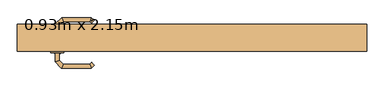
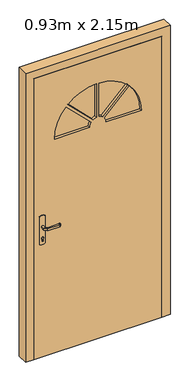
"""IFC4 building model written with IfcOpenShell, lengths in millimetres: door geometry, Entrée - 01 : 0.93m x 2.15m."""

from ifc_helpers import new_model, si_unit, point, frame, frame_2d, origin, place, context, project, spatial, polyline, circle_curve, ellipse_curve, trimmed, segment, composite_curve, outline, extrude, faceted_brep, source, transform, mapped, element, save
from ifc_brep_helpers import plane_surface, cylinder_surface, revolved_surface, advanced_brep


def door_0_93m_x_2_15m_e6f15c2d(model_context):
    return source(origin(), model_context, "Body", "SolidModel", [
        extrude(outline(composite_curve([segment(polyline([(908.0464422, -410.0), (895.0, -410.0)]), True, "CONTINUOUS"), segment(trimmed(circle_curve(frame_2d((895.0, -405.0)), 5.0), [point((895.0, -410.0))], [point((895.0, -400.0))], False, "CARTESIAN"), True, "CONTINUOUS"), segment(polyline([(895.0, -400.0), (908.0464422, -400.0)]), True, "CONTINUOUS"), segment(trimmed(circle_curve(frame_2d((914.2914402, -405.0)), 8.0), [point((908.0464422, -400.0))], [point((908.0464422, -410.0))], False, "CARTESIAN"), True, "CONTINUOUS")], self_intersect=False)), frame((0.0, -110.2546167, 0.0), z_axis=(0.0, 1.0, 0.0), x_axis=(0.0, 0.0, 1.0)), (0.0, 0.0, 1.0), 5.0),
        extrude(outline(composite_curve([segment(polyline([(908.0464422, -410.0), (895.0, -410.0)]), True, "CONTINUOUS"), segment(trimmed(circle_curve(frame_2d((895.0, -405.0)), 5.0), [point((895.0, -410.0))], [point((895.0, -400.0))], False, "CARTESIAN"), True, "CONTINUOUS"), segment(polyline([(895.0, -400.0), (908.0464422, -400.0)]), True, "CONTINUOUS"), segment(trimmed(circle_curve(frame_2d((914.2914402, -405.0)), 8.0), [point((908.0464422, -400.0))], [point((908.0464422, -410.0))], False, "CARTESIAN"), True, "CONTINUOUS")], self_intersect=False)), frame((0.0, -173.2546167, 0.0), z_axis=(0.0, 1.0, 0.0), x_axis=(0.0, 0.0, 1.0)), (0.0, 0.0, 1.0), 3.0),
        advanced_brep(
        [(-399.0, -110.2546167, 993.0), (-399.0, -110.2546167, 1007.0), (-411.0, -110.2546167, 1007.0), (-411.0, -110.2546167, 993.0), (-399.0, -87.7694122, 993.0), (-399.0, -87.7694122, 1007.0), (-411.0, -82.7988495, 1007.0), (-411.0, -82.7988495, 993.0), (-387.5147186, -76.2841309, 993.0), (-387.5147186, -76.2841309, 1007.0), (-392.4852814, -64.2841309, 1007.0), (-392.4852814, -64.2841309, 993.0), (-307.4394977, -76.2841309, 993.0), (-307.4394977, -76.2841309, 1007.0), (-302.468935, -64.2841309, 1007.0), (-302.468935, -64.2841309, 993.0), (-302.1257892, -81.5978394, 993.0), (-293.6405078, -73.112558, 993.0), (-293.6405078, -73.112558, 1007.0), (-302.1257892, -81.5978394, 1007.0)],
        [
            (0, 1),
            (1, 2, circle_curve(frame((-405.0, -110.2546167, 986.9542278), z_axis=(0.0, -1.0, 0.0), x_axis=(-1.0, 0.0, 0.0)), 20.9244589)),
            (2, 3),
            (3, 0, circle_curve(frame((-405.0, -110.2546167, 1013.0457722), z_axis=(0.0, -1.0, 0.0), x_axis=(-1.0, 0.0, 0.0)), 20.9244589)),
            (0, 4),
            (4, 5),
            (5, 1),
            (5, 6, ellipse_curve(frame((-405.0, -85.2841309, 986.9542278), z_axis=(-0.3826834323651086, -0.923879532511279, 0.0), x_axis=(0.9238795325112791, -0.3826834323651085, 0.0)), 22.6484711, 20.9244589)),
            (6, 2),
            (6, 7),
            (7, 3),
            (7, 4, ellipse_curve(frame((-405.0, -85.2841309, 1013.0457722), z_axis=(-0.3826834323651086, -0.923879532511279, 0.0), x_axis=(0.9238795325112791, -0.3826834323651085, 0.0)), 22.6484711, 20.9244589)),
            (4, 8),
            (8, 9),
            (9, 5),
            (9, 10, ellipse_curve(frame((-390.0, -70.2841309, 986.9542278), z_axis=(-0.9238795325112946, -0.38268343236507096, 0.0), x_axis=(0.3826834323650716, -0.9238795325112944, 0.0)), 22.6484711, 20.9244589)),
            (10, 6),
            (10, 11),
            (11, 7),
            (11, 8, ellipse_curve(frame((-390.0, -70.2841309, 1013.0457722), z_axis=(-0.9238795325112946, -0.38268343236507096, 0.0), x_axis=(0.3826834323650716, -0.9238795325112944, 0.0)), 22.6484711, 20.9244589)),
            (8, 12),
            (12, 13),
            (13, 9),
            (13, 14, ellipse_curve(frame((-304.9542163, -70.2841309, 986.9542278), z_axis=(-0.9238795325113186, 0.38268343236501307, 0.0), x_axis=(-0.3826834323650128, -0.9238795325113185, 0.0)), 22.6484711, 20.9244589)),
            (14, 10),
            (14, 15),
            (15, 11),
            (15, 12, ellipse_curve(frame((-304.9542163, -70.2841309, 1013.0457722), z_axis=(-0.9238795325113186, 0.38268343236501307, 0.0), x_axis=(-0.3826834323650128, -0.9238795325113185, 0.0)), 22.6484711, 20.9244589)),
            (16, 17, circle_curve(frame((-297.8831485, -77.3551987, 1013.0457722), z_axis=(0.707106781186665, -0.7071067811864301, 0.0), x_axis=(0.7071067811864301, 0.707106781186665, 0.0)), 20.9244589)),
            (17, 18),
            (18, 19, circle_curve(frame((-297.8831485, -77.3551987, 986.9542278), z_axis=(0.707106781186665, -0.7071067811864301, 0.0), x_axis=(0.7071067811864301, 0.707106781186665, 0.0)), 20.9244589)),
            (19, 16),
            (12, 16),
            (19, 13),
            (18, 14),
            (17, 15),
        ],
        [
            plane_surface(frame((-414.2195445, -110.2546167, 1000.0), z_axis=(0.0, -1.0, 0.0), x_axis=(0.0, 0.0, 1.0))),
            plane_surface(frame((-399.0, -110.2546167, 993.0), z_axis=(1.0, 0.0, 0.0), x_axis=(0.0, 1.0, 0.0))),
            cylinder_surface(frame((-405.0, -110.2546167, 986.9542278), z_axis=(0.0, -1.0, 0.0), x_axis=(-1.0, 0.0, 0.0)), 20.9244589),
            plane_surface(frame((-411.0, -110.2546167, 1007.0), z_axis=(-1.0, 0.0, 0.0), x_axis=(0.0, 1.0, 0.0))),
            cylinder_surface(frame((-405.0, -110.2546167, 1013.0457722), z_axis=(0.0, -1.0, 0.0), x_axis=(-1.0, 0.0, 0.0)), 20.9244589),
            plane_surface(frame((-399.0, -87.7694122, 993.0), z_axis=(0.7071067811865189, -0.7071067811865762, 0.0), x_axis=(0.7071067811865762, 0.7071067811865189, 0.0))),
            cylinder_surface(frame((-405.0, -85.2841309, 986.9542278), z_axis=(-0.7071067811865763, -0.7071067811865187, 0.0), x_axis=(-0.7071067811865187, 0.7071067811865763, 0.0)), 20.9244589),
            plane_surface(frame((-411.0, -82.7988495, 1007.0), z_axis=(-0.7071067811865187, 0.7071067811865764, 0.0), x_axis=(0.7071067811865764, 0.7071067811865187, 0.0))),
            cylinder_surface(frame((-405.0, -85.2841309, 1013.0457722), z_axis=(-0.7071067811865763, -0.7071067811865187, 0.0), x_axis=(-0.7071067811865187, 0.7071067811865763, 0.0)), 20.9244589),
            plane_surface(frame((-387.5147186, -76.2841309, 993.0), z_axis=(0.0, -1.0, 0.0), x_axis=(1.0, 0.0, 0.0))),
            cylinder_surface(frame((-390.0, -70.2841309, 986.9542278), z_axis=(-1.0, 0.0, 0.0), x_axis=(0.0, 1.0, 0.0)), 20.9244589),
            plane_surface(frame((-392.4852814, -64.2841309, 1007.0), z_axis=(0.0, 1.0, 0.0), x_axis=(1.0, 0.0, 0.0))),
            cylinder_surface(frame((-390.0, -70.2841309, 1013.0457722), z_axis=(-1.0, 0.0, 0.0), x_axis=(0.0, 1.0, 0.0)), 20.9244589),
            plane_surface(frame((-297.8831485, -77.3551987, 990.7804555), z_axis=(0.7071067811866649, -0.7071067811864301, 0.0), x_axis=(0.7071067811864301, 0.7071067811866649, 0.0))),
            plane_surface(frame((-307.4394977, -76.2841309, 993.0), z_axis=(-0.7071067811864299, -0.7071067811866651, 0.0), x_axis=(0.7071067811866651, -0.7071067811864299, 0.0))),
            cylinder_surface(frame((-304.9542163, -70.2841309, 986.9542278), z_axis=(-0.707106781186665, 0.7071067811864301, 0.0), x_axis=(0.7071067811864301, 0.707106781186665, 0.0)), 20.9244589),
            plane_surface(frame((-302.468935, -64.2841309, 1007.0), z_axis=(0.7071067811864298, 0.7071067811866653, 0.0), x_axis=(0.7071067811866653, -0.7071067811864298, 0.0))),
            cylinder_surface(frame((-304.9542163, -70.2841309, 1013.0457722), z_axis=(-0.707106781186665, 0.7071067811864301, 0.0), x_axis=(0.7071067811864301, 0.707106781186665, 0.0)), 20.9244589),
        ],
        [
            (0, [[1, 2, 3, 4]]),
            (1, [[-1, 5, 6, 7]]),
            (2, [[-2, -7, 8, 9]]),
            (3, [[-3, -9, 10, 11]]),
            (4, [[-4, -11, 12, -5]]),
            (5, [[-6, 13, 14, 15]]),
            (6, [[-8, -15, 16, 17]]),
            (7, [[-10, -17, 18, 19]]),
            (8, [[-12, -19, 20, -13]]),
            (9, [[-14, 21, 22, 23]]),
            (10, [[-16, -23, 24, 25]]),
            (11, [[-18, -25, 26, 27]]),
            (12, [[-20, -27, 28, -21]]),
            (13, [[29, 30, 31, 32]]),
            (14, [[-22, 33, -32, 34]]),
            (15, [[-24, -34, -31, 35]]),
            (16, [[-26, -35, -30, 36]]),
            (17, [[-28, -36, -29, -33]]),
        ],
    ),
        advanced_brep(
        [(-411.0, -170.2546167, 1007.0), (-399.0, -170.2546167, 1007.0), (-399.0, -170.2546167, 993.0), (-411.0, -170.2546167, 993.0), (-411.0, -197.9055674, 1007.0), (-399.0, -192.9350047, 1007.0), (-399.0, -192.9350047, 993.0), (-411.0, -197.9055674, 993.0), (-392.62279, -216.2827774, 1007.0), (-387.6522273, -204.2827774, 1007.0), (-387.6522273, -204.2827774, 993.0), (-392.62279, -216.2827774, 993.0), (-302.496078, -216.2827774, 1007.0), (-307.4666408, -204.2827774, 1007.0), (-307.4666408, -204.2827774, 993.0), (-302.496078, -216.2827774, 993.0), (-293.6676509, -207.4543503, 1007.0), (-293.6676509, -207.4543503, 993.0), (-302.1529323, -198.9690689, 993.0), (-302.1529323, -198.9690689, 1007.0)],
        [
            (0, 1, circle_curve(frame((-405.0, -170.2546167, 986.9542278), z_axis=(0.0, 1.0, 0.0), x_axis=(1.0, 0.0, 0.0)), 20.9244589)),
            (1, 2),
            (2, 3, circle_curve(frame((-405.0, -170.2546167, 1013.0457722), z_axis=(0.0, 1.0, 0.0), x_axis=(1.0, 0.0, 0.0)), 20.9244589)),
            (3, 0),
            (0, 4),
            (4, 5, ellipse_curve(frame((-405.0, -195.4202861, 986.9542278), z_axis=(-0.3826834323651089, 0.9238795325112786, 0.0), x_axis=(0.9238795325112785, 0.3826834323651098, 0.0)), 22.6484711, 20.9244589)),
            (5, 1),
            (5, 6),
            (6, 2),
            (6, 7, ellipse_curve(frame((-405.0, -195.4202861, 1013.0457722), z_axis=(-0.3826834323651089, 0.9238795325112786, 0.0), x_axis=(0.9238795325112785, 0.3826834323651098, 0.0)), 22.6484711, 20.9244589)),
            (7, 3),
            (7, 4),
            (4, 8),
            (8, 9, ellipse_curve(frame((-390.1375086, -210.2827774, 986.9542278), z_axis=(-0.9238795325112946, 0.38268343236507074, 0.0), x_axis=(0.3826834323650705, 0.9238795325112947, 0.0)), 22.6484711, 20.9244589)),
            (9, 5),
            (9, 10),
            (10, 6),
            (10, 11, ellipse_curve(frame((-390.1375086, -210.2827774, 1013.0457722), z_axis=(-0.9238795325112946, 0.38268343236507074, 0.0), x_axis=(0.3826834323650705, 0.9238795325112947, 0.0)), 22.6484711, 20.9244589)),
            (11, 7),
            (11, 8),
            (8, 12),
            (12, 13, ellipse_curve(frame((-304.9813594, -210.2827774, 986.9542278), z_axis=(-0.9238795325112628, -0.3826834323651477, 0.0), x_axis=(-0.3826834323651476, 0.9238795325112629, 0.0)), 22.6484711, 20.9244589)),
            (13, 9),
            (13, 14),
            (14, 10),
            (14, 15, ellipse_curve(frame((-304.9813594, -210.2827774, 1013.0457722), z_axis=(-0.9238795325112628, -0.3826834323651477, 0.0), x_axis=(-0.3826834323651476, 0.9238795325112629, 0.0)), 22.6484711, 20.9244589)),
            (15, 11),
            (15, 12),
            (16, 17),
            (17, 18, circle_curve(frame((-297.9102916, -203.2117096, 1013.0457722), z_axis=(0.7071067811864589, 0.7071067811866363, 0.0), x_axis=(-0.7071067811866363, 0.7071067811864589, 0.0)), 20.9244589)),
            (18, 19),
            (19, 16, circle_curve(frame((-297.9102916, -203.2117096, 986.9542278), z_axis=(0.7071067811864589, 0.7071067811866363, 0.0), x_axis=(-0.7071067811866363, 0.7071067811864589, 0.0)), 20.9244589)),
            (12, 16),
            (19, 13),
            (18, 14),
            (17, 15),
        ],
        [
            plane_surface(frame((-414.2195445, -170.2546167, 1000.0), z_axis=(0.0, 1.0, 0.0), x_axis=(0.0, 0.0, -1.0))),
            cylinder_surface(frame((-405.0, -170.2546167, 986.9542278), z_axis=(0.0, 1.0, 0.0), x_axis=(1.0, 0.0, 0.0)), 20.9244589),
            plane_surface(frame((-399.0, -170.2546167, 1007.0), z_axis=(1.0, 0.0, 0.0), x_axis=(0.0, -1.0, 0.0))),
            cylinder_surface(frame((-405.0, -170.2546167, 1013.0457722), z_axis=(0.0, 1.0, 0.0), x_axis=(1.0, 0.0, 0.0)), 20.9244589),
            plane_surface(frame((-411.0, -170.2546167, 993.0), z_axis=(-1.0, 0.0, 0.0), x_axis=(0.0, -1.0, 0.0))),
            cylinder_surface(frame((-405.0, -195.4202861, 986.9542278), z_axis=(-0.7071067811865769, 0.7071067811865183, 0.0), x_axis=(0.7071067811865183, 0.7071067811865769, 0.0)), 20.9244589),
            plane_surface(frame((-399.0, -192.9350047, 1007.0), z_axis=(0.7071067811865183, 0.7071067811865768, 0.0), x_axis=(0.7071067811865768, -0.7071067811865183, 0.0))),
            cylinder_surface(frame((-405.0, -195.4202861, 1013.0457722), z_axis=(-0.7071067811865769, 0.7071067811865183, 0.0), x_axis=(0.7071067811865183, 0.7071067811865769, 0.0)), 20.9244589),
            plane_surface(frame((-411.0, -197.9055674, 993.0), z_axis=(-0.7071067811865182, -0.707106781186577, 0.0), x_axis=(0.707106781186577, -0.7071067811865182, 0.0))),
            cylinder_surface(frame((-390.1375086, -210.2827774, 986.9542278), z_axis=(-1.0, 0.0, 0.0), x_axis=(0.0, 1.0, 0.0)), 20.9244589),
            plane_surface(frame((-387.6522273, -204.2827774, 1007.0), z_axis=(0.0, 1.0, 0.0), x_axis=(1.0, 0.0, 0.0))),
            cylinder_surface(frame((-390.1375086, -210.2827774, 1013.0457722), z_axis=(-1.0, 0.0, 0.0), x_axis=(0.0, 1.0, 0.0)), 20.9244589),
            plane_surface(frame((-392.62279, -216.2827774, 993.0), z_axis=(0.0, -1.0, 0.0), x_axis=(1.0, 0.0, 0.0))),
            plane_surface(frame((-297.9102916, -203.2117096, 1009.2195445), z_axis=(0.7071067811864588, 0.7071067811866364, 0.0), x_axis=(0.7071067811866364, -0.7071067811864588, 0.0))),
            cylinder_surface(frame((-304.9813594, -210.2827774, 986.9542278), z_axis=(-0.7071067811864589, -0.7071067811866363, 0.0), x_axis=(-0.7071067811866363, 0.7071067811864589, 0.0)), 20.9244589),
            plane_surface(frame((-307.4666408, -204.2827774, 1007.0), z_axis=(-0.7071067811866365, 0.7071067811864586, 0.0), x_axis=(0.7071067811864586, 0.7071067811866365, 0.0))),
            cylinder_surface(frame((-304.9813594, -210.2827774, 1013.0457722), z_axis=(-0.7071067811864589, -0.7071067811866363, 0.0), x_axis=(-0.7071067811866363, 0.7071067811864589, 0.0)), 20.9244589),
            plane_surface(frame((-302.496078, -216.2827774, 993.0), z_axis=(0.7071067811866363, -0.7071067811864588, 0.0), x_axis=(0.7071067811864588, 0.7071067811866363, 0.0))),
        ],
        [
            (0, [[1, 2, 3, 4]]),
            (1, [[-1, 5, 6, 7]]),
            (2, [[-2, -7, 8, 9]]),
            (3, [[-3, -9, 10, 11]]),
            (4, [[-4, -11, 12, -5]]),
            (5, [[-6, 13, 14, 15]]),
            (6, [[-8, -15, 16, 17]]),
            (7, [[-10, -17, 18, 19]]),
            (8, [[-12, -19, 20, -13]]),
            (9, [[-14, 21, 22, 23]]),
            (10, [[-16, -23, 24, 25]]),
            (11, [[-18, -25, 26, 27]]),
            (12, [[-20, -27, 28, -21]]),
            (13, [[29, 30, 31, 32]]),
            (14, [[-22, 33, -32, 34]]),
            (15, [[-24, -34, -31, 35]]),
            (16, [[-26, -35, -30, 36]]),
            (17, [[-28, -36, -29, -33]]),
        ],
    ),
        extrude(outline(composite_curve([segment(trimmed(circle_curve(frame_2d((1045.3589838, -405.0)), 40.0), [point((1080.0, -385.0))], [point((1080.0, -425.0))], False, "CARTESIAN"), True, "CONTINUOUS"), segment(polyline([(1080.0, -425.0), (870.0, -425.0)]), True, "CONTINUOUS"), segment(trimmed(circle_curve(frame_2d((904.6410162, -405.0)), 40.0), [point((870.0, -425.0))], [point((870.0, -385.0))], False, "CARTESIAN"), True, "CONTINUOUS"), segment(polyline([(870.0, -385.0), (1080.0, -385.0)]), True, "CONTINUOUS")], self_intersect=False)), frame((0.0, -115.2546167, 0.0), z_axis=(0.0, 1.0, 0.0), x_axis=(0.0, 0.0, 1.0)), (0.0, 0.0, 1.0), 5.0),
        extrude(outline(composite_curve([segment(trimmed(circle_curve(frame_2d((904.6410162, -405.0)), 40.0), [point((870.0, -425.0))], [point((870.0, -385.0))], False, "CARTESIAN"), True, "CONTINUOUS"), segment(polyline([(870.0, -385.0), (1080.0, -385.0)]), True, "CONTINUOUS"), segment(trimmed(circle_curve(frame_2d((1045.3589838, -405.0)), 40.0), [point((1080.0, -385.0))], [point((1080.0, -425.0))], False, "CARTESIAN"), True, "CONTINUOUS"), segment(polyline([(1080.0, -425.0), (870.0, -425.0)]), True, "CONTINUOUS")], self_intersect=False)), frame((0.0, -170.2546167, 0.0), z_axis=(0.0, 1.0, 0.0), x_axis=(0.0, 0.0, 1.0)), (0.0, 0.0, 1.0), 5.0),
        faceted_brep([(-525.0, -85.2546167, 0.0), (-450.0, -85.2546167, 0.0), (-450.0, -115.2546167, 0.0), (-465.0, -115.2546167, 0.0), (-465.0, -165.2546167, 0.0), (-525.0, -165.2546167, 0.0), (-525.0, -85.2546167, 2210.0), (525.0, -85.2546167, 2210.0), (525.0, -85.2546167, 0.0), (450.0, -85.2546167, 0.0), (450.0, -85.2546167, 2135.0), (-450.0, -85.2546167, 2135.0), (-450.0, -115.2546167, 2135.0), (450.0, -115.2546167, 2135.0), (450.0, -115.2546167, 0.0), (465.0, -115.2546167, 0.0), (465.0, -115.2546167, 2150.0), (-465.0, -115.2546167, 2150.0), (-465.0, -165.2546167, 2150.0), (465.0, -165.2546167, 2150.0), (465.0, -165.2546167, 0.0), (525.0, -165.2546167, 0.0), (525.0, -165.2546167, 2210.0), (-525.0, -165.2546167, 2210.0)], [[[0, 1, 2, 3, 4, 5]], [[1, 0, 6, 7, 8, 9, 10, 11]], [[2, 1, 11, 12]], [[3, 2, 12, 13, 14, 15, 16, 17]], [[4, 3, 17, 18]], [[5, 4, 18, 19, 20, 21, 22, 23]], [[0, 5, 23, 6]], [[7, 22, 21, 8]], [[8, 21, 20, 15, 14, 9]], [[13, 10, 9, 14]], [[19, 16, 15, 20]], [[12, 11, 10, 13]], [[18, 17, 16, 19]], [[6, 23, 22, 7]]]),
        extrude(outline(composite_curve([segment(trimmed(circle_curve(frame_2d((1635.0, 0.0)), 315.0), [point((1850.5553008, -229.6974364))], [point((1635.0, -315.0))], False, "CARTESIAN"), True, "CONTINUOUS"), segment(polyline([(1635.0, -315.0), (1635.0, -60.0)]), True, "CONTINUOUS"), segment(trimmed(circle_curve(frame_2d((1635.0, 0.0)), 60.0), [point((1635.0, -60.0))], [point((1669.7619335, -48.9040691))], True, "CARTESIAN"), True, "CONTINUOUS"), segment(polyline([(1669.7619335, -48.9040691), (1850.5553008, -229.6974364)]), True, "CONTINUOUS")], self_intersect=False)), frame((0.0, -145.2546167, 0.0), z_axis=(0.0, 1.0, 0.0), x_axis=(0.0, 0.0, 1.0)), (0.0, 0.0, 1.0), 10.0),
        extrude(outline(composite_curve([segment(trimmed(circle_curve(frame_2d((1635.0, 0.0)), 314.9769035), [point((1949.8181217, -10.0))], [point((1864.6810965, -215.5389609))], False, "CARTESIAN"), True, "CONTINUOUS"), segment(polyline([(1864.6810965, -215.5389609), (1683.9040691, -34.7619335)]), True, "CONTINUOUS"), segment(trimmed(circle_curve(frame_2d((1635.0, 0.0)), 60.0), [point((1683.9040691, -34.7619335))], [point((1694.1607978, -10.0))], True, "CARTESIAN"), True, "CONTINUOUS"), segment(polyline([(1694.1607978, -10.0), (1949.8181217, -10.0)]), True, "CONTINUOUS")], self_intersect=False)), frame((0.0, -145.2546167, 0.0), z_axis=(0.0, 1.0, 0.0), x_axis=(0.0, 0.0, 1.0)), (0.0, 0.0, 1.0), 10.0),
        extrude(outline(composite_curve([segment(trimmed(circle_curve(frame_2d((1635.0, 0.0)), 60.0), [point((1694.1607978, 10.0))], [point((1683.9040691, 34.7619335))], True, "CARTESIAN"), True, "CONTINUOUS"), segment(polyline([(1683.9040691, 34.7619335), (1864.6810965, 215.5389609)]), True, "CONTINUOUS"), segment(trimmed(circle_curve(frame_2d((1635.0, 0.0)), 314.9769035), [point((1864.6810965, 215.5389609))], [point((1949.8181217, 10.0))], False, "CARTESIAN"), True, "CONTINUOUS"), segment(polyline([(1949.8181217, 10.0), (1694.1607978, 10.0)]), True, "CONTINUOUS")], self_intersect=False)), frame((0.0, -145.2546167, 0.0), z_axis=(0.0, 1.0, 0.0), x_axis=(0.0, 0.0, 1.0)), (0.0, 0.0, 1.0), 10.0),
        extrude(outline(composite_curve([segment(trimmed(circle_curve(frame_2d((1635.0, 0.0)), 315.0), [point((1635.0, 315.0))], [point((1850.5553008, 229.6974364))], False, "CARTESIAN"), True, "CONTINUOUS"), segment(polyline([(1850.5553008, 229.6974364), (1669.7619335, 48.9040691)]), True, "CONTINUOUS"), segment(trimmed(circle_curve(frame_2d((1635.0, 0.0)), 60.0), [point((1669.7619335, 48.9040691))], [point((1635.0, 60.0))], True, "CARTESIAN"), True, "CONTINUOUS"), segment(polyline([(1635.0, 60.0), (1635.0, 315.0)]), True, "CONTINUOUS")], self_intersect=False)), frame((0.0, -145.2546167, 0.0), z_axis=(0.0, 1.0, 0.0), x_axis=(0.0, 0.0, 1.0)), (0.0, 0.0, 1.0), 10.0),
        extrude(outline(polyline([(2150.0, -465.0), (0.0, -465.0), (0.0, 465.0), (2150.0, 465.0), (2150.0, -465.0)]), holes=[composite_curve([segment(polyline([(1850.5553008, -229.6974364), (1669.7619335, -48.9040691)]), True, "CONTINUOUS"), segment(trimmed(circle_curve(frame_2d((1635.0, 0.0)), 60.0), [point((1669.7619335, -48.9040691))], [point((1635.0, -60.0))], False, "CARTESIAN"), True, "CONTINUOUS"), segment(polyline([(1635.0, -60.0), (1635.0, -315.0)]), True, "CONTINUOUS"), segment(trimmed(circle_curve(frame_2d((1635.0, 0.0)), 315.0), [point((1635.0, -315.0))], [point((1850.5553008, -229.6974364))], True, "CARTESIAN"), True, "CONTINUOUS")], self_intersect=False), composite_curve([segment(polyline([(1669.7619335, 48.9040691), (1850.5553008, 229.6974364)]), True, "CONTINUOUS"), segment(trimmed(circle_curve(frame_2d((1635.0, 0.0)), 315.0), [point((1850.5553008, 229.6974364))], [point((1635.0, 315.0))], True, "CARTESIAN"), True, "CONTINUOUS"), segment(polyline([(1635.0, 315.0), (1635.0, 60.0)]), True, "CONTINUOUS"), segment(trimmed(circle_curve(frame_2d((1635.0, 0.0)), 60.0), [point((1635.0, 60.0))], [point((1669.7619335, 48.9040691))], False, "CARTESIAN"), True, "CONTINUOUS")], self_intersect=False), composite_curve([segment(polyline([(1949.8181217, -10.0), (1694.1607978, -10.0)]), True, "CONTINUOUS"), segment(trimmed(circle_curve(frame_2d((1635.0, 0.0)), 60.0), [point((1694.1607978, -10.0))], [point((1683.9040691, -34.7619335))], False, "CARTESIAN"), True, "CONTINUOUS"), segment(polyline([(1683.9040691, -34.7619335), (1864.6810965, -215.5389609)]), True, "CONTINUOUS"), segment(trimmed(circle_curve(frame_2d((1635.0, 0.0)), 314.9769035), [point((1864.6810965, -215.5389609))], [point((1949.8181217, -10.0))], True, "CARTESIAN"), True, "CONTINUOUS")], self_intersect=False), composite_curve([segment(trimmed(circle_curve(frame_2d((1635.0, 0.0)), 314.9769035), [point((1949.8181217, 10.0))], [point((1864.6810965, 215.5389609))], True, "CARTESIAN"), True, "CONTINUOUS"), segment(polyline([(1864.6810965, 215.5389609), (1683.9040691, 34.7619335)]), True, "CONTINUOUS"), segment(trimmed(circle_curve(frame_2d((1635.0, 0.0)), 60.0), [point((1683.9040691, 34.7619335))], [point((1694.1607978, 10.0))], False, "CARTESIAN"), True, "CONTINUOUS"), segment(polyline([(1694.1607978, 10.0), (1949.8181217, 10.0)]), True, "CONTINUOUS")], self_intersect=False)]), frame((0.0, -165.2546167, 0.0), z_axis=(0.0, 1.0, 0.0), x_axis=(0.0, 0.0, 1.0)), (0.0, 0.0, 1.0), 50.0),
        advanced_brep(
        [(-315.0, -113.2546167, 866.6666667), (-315.0, -115.2546167, 866.6666667), (-315.0, -115.2546167, 1485.0), (-315.0, -113.2546167, 1485.0), (-307.9088796, -108.2546167, 873.7577871), (-312.851518, -113.2546167, 868.8151487), (-312.851518, -113.2546167, 1482.851518), (-307.9088796, -108.2546167, 1477.9088796), (-295.0, -108.2546167, 886.6666667), (-305.0, -108.2546167, 876.6666667), (-305.0, -108.2546167, 1475.0), (-295.0, -108.2546167, 1465.0), (-286.9651836, -113.2546167, 894.701483), (-292.0232109, -108.2546167, 889.6434558), (-292.0232109, -108.2546167, 1462.0232109), (-286.9651836, -113.2546167, 1456.9651836), (-285.0, -115.2546167, 896.6666667), (-285.0, -113.2546167, 896.6666667), (-285.0, -113.2546167, 1455.0), (-285.0, -115.2546167, 1455.0), (-60.0, -115.2546167, 1485.0), (-60.0, -113.2546167, 1485.0), (-62.148482, -113.2546167, 1482.851518), (-67.0911204, -108.2546167, 1477.9088796), (-70.0, -108.2546167, 1475.0), (-80.0, -108.2546167, 1465.0), (-82.9767891, -108.2546167, 1462.0232109), (-88.0348164, -113.2546167, 1456.9651836), (-90.0, -113.2546167, 1455.0), (-90.0, -115.2546167, 1455.0), (-60.0, -115.2546167, 866.6666667), (-60.0, -113.2546167, 866.6666667), (-62.148482, -113.2546167, 868.8151487), (-67.0911204, -108.2546167, 873.7577871), (-70.0, -108.2546167, 876.6666667), (-80.0, -108.2546167, 886.6666667), (-82.9767891, -108.2546167, 889.6434558), (-88.0348164, -113.2546167, 894.701483), (-90.0, -113.2546167, 896.6666667), (-90.0, -115.2546167, 896.6666667)],
        [
            (0, 1),
            (1, 2),
            (2, 3),
            (3, 0),
            (4, 5),
            (5, 6),
            (6, 7),
            (7, 4),
            (8, 9, ellipse_curve(frame((-300.0, -103.0049426, 881.6666667), z_axis=(0.7071067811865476, 0.0, -0.7071067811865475), x_axis=(0.7071067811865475, 0.0, 0.7071067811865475)), 10.2527146, 7.249764)),
            (9, 10),
            (10, 11, ellipse_curve(frame((-300.0, -103.0049426, 1470.0), z_axis=(0.7071067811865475, 0.0, 0.7071067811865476), x_axis=(-0.7071067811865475, 0.0, 0.7071067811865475)), 10.2527146, 7.249764)),
            (11, 8),
            (12, 13),
            (13, 14),
            (14, 15),
            (15, 12),
            (16, 17),
            (17, 18),
            (18, 19),
            (19, 16),
            (2, 20),
            (20, 21),
            (21, 3),
            (6, 22),
            (22, 23),
            (23, 7),
            (10, 24),
            (24, 25, ellipse_curve(frame((-75.0, -103.0049426, 1470.0), z_axis=(0.7071067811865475, 0.0, -0.7071067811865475), x_axis=(0.7071067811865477, 0.0, 0.7071067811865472)), 10.2527146, 7.249764)),
            (25, 11),
            (14, 26),
            (26, 27),
            (27, 15),
            (18, 28),
            (28, 29),
            (29, 19),
            (20, 30),
            (30, 31),
            (31, 21),
            (22, 32),
            (32, 33),
            (33, 23),
            (24, 34),
            (34, 35, ellipse_curve(frame((-75.0, -103.0049426, 881.6666667), z_axis=(-0.7071067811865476, 0.0, -0.7071067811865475), x_axis=(0.7071067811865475, 0.0, -0.7071067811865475)), 10.2527146, 7.249764)),
            (35, 25),
            (26, 36),
            (36, 37),
            (37, 27),
            (28, 38),
            (38, 39),
            (39, 29),
            (1, 30),
            (39, 16),
            (0, 31),
            (5, 32),
            (4, 33),
            (9, 34),
            (8, 35),
            (13, 36),
            (12, 37),
            (17, 38),
        ],
        [
            plane_surface(frame((-315.0, -115.2546167, 866.6666667), z_axis=(-1.0, 0.0, 0.0), x_axis=(0.0, 0.0, 1.0))),
            plane_surface(frame((-312.851518, -113.2546167, 868.8151487), z_axis=(-0.7111744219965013, 0.7030156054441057, 0.0), x_axis=(0.0, 0.0, 1.0))),
            revolved_surface(polyline([(-307.249764, -103.0049426, 1477.2497640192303), (-307.249764, -103.0049426, 874.4169026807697)]), (-300.0, -103.0049426, 866.6666667), (0.0, 0.0, 1.0)),
            plane_surface(frame((-292.0232109, -108.2546167, 889.6434558), z_axis=(0.7030156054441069, 0.7111744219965, 0.0), x_axis=(0.0, 0.0, 1.0))),
            plane_surface(frame((-285.0, -113.2546167, 896.6666667), z_axis=(1.0, 0.0, 0.0), x_axis=(0.0, 0.0, 1.0))),
            plane_surface(frame((-315.0, -115.2546167, 1485.0), z_axis=(0.0, 0.0, 1.0), x_axis=(1.0, 0.0, 0.0))),
            plane_surface(frame((-312.851518, -113.2546167, 1482.851518), z_axis=(0.0, 0.7030156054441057, 0.7111744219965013), x_axis=(1.0, 0.0, 0.0))),
            revolved_surface(polyline([(-67.75023598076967, -103.0049426, 1477.249764), (-307.2497640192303, -103.0049426, 1477.249764)]), (-315.0, -103.0049426, 1470.0), (1.0, 0.0, 0.0)),
            plane_surface(frame((-292.0232109, -108.2546167, 1462.0232109), z_axis=(0.0, 0.7111744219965, -0.7030156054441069), x_axis=(1.0, 0.0, 0.0))),
            plane_surface(frame((-285.0, -113.2546167, 1455.0), z_axis=(0.0, 0.0, -1.0), x_axis=(1.0, 0.0, 0.0))),
            plane_surface(frame((-60.0, -115.2546167, 1485.0), z_axis=(1.0, 0.0, 0.0), x_axis=(0.0, 0.0, -1.0))),
            plane_surface(frame((-62.148482, -113.2546167, 1482.851518), z_axis=(0.7111744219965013, 0.7030156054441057, 0.0), x_axis=(0.0, 0.0, -1.0))),
            revolved_surface(polyline([(-67.750236, -103.0049426, 874.4169026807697), (-67.750236, -103.0049426, 1477.2497640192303)]), (-75.0, -103.0049426, 1485.0), (0.0, 0.0, -1.0)),
            plane_surface(frame((-82.9767891, -108.2546167, 1462.0232109), z_axis=(-0.7030156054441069, 0.7111744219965, 0.0), x_axis=(0.0, 0.0, -1.0))),
            plane_surface(frame((-90.0, -113.2546167, 1455.0), z_axis=(-1.0, 0.0, 0.0), x_axis=(0.0, 0.0, -1.0))),
            plane_surface(frame((-90.0, -115.2546167, 896.6666667), z_axis=(0.0, -1.0, 0.0), x_axis=(-1.0, 0.0, 0.0))),
            plane_surface(frame((-60.0, -115.2546167, 866.6666667), z_axis=(0.0, 0.0, -1.0), x_axis=(-1.0, 0.0, 0.0))),
            plane_surface(frame((-60.0, -113.2546167, 866.6666667), z_axis=(0.0, 1.0, 0.0), x_axis=(-1.0, 0.0, 0.0))),
            plane_surface(frame((-62.148482, -113.2546167, 868.8151487), z_axis=(0.0, 0.7030156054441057, -0.7111744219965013), x_axis=(-1.0, 0.0, 0.0))),
            plane_surface(frame((-67.0911204, -108.2546167, 873.7577871), z_axis=(0.0, 1.0, 0.0), x_axis=(-1.0, 0.0, 0.0))),
            revolved_surface(polyline([(-307.2497640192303, -103.0049426, 874.4169026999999), (-67.75023598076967, -103.0049426, 874.4169026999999)]), (-60.0, -103.0049426, 881.6666667), (-1.0, 0.0, 0.0)),
            plane_surface(frame((-80.0, -108.2546167, 886.6666667), z_axis=(0.0, 1.0, 0.0), x_axis=(-1.0, 0.0, 0.0))),
            plane_surface(frame((-82.9767891, -108.2546167, 889.6434558), z_axis=(0.0, 0.7111744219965, 0.7030156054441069), x_axis=(-1.0, 0.0, 0.0))),
            plane_surface(frame((-88.0348164, -113.2546167, 894.701483), z_axis=(0.0, 1.0, 0.0), x_axis=(-1.0, 0.0, 0.0))),
            plane_surface(frame((-90.0, -113.2546167, 896.6666667), z_axis=(0.0, 0.0, 1.0), x_axis=(-1.0, 0.0, 0.0))),
        ],
        [
            (0, [[1, 2, 3, 4]]),
            (1, [[5, 6, 7, 8]]),
            (2, [[9, 10, 11, 12]]),
            (3, [[13, 14, 15, 16]]),
            (4, [[17, 18, 19, 20]]),
            (5, [[-3, 21, 22, 23]]),
            (6, [[-7, 24, 25, 26]]),
            (7, [[-11, 27, 28, 29]]),
            (8, [[-15, 30, 31, 32]]),
            (9, [[-19, 33, 34, 35]]),
            (10, [[-22, 36, 37, 38]]),
            (11, [[-25, 39, 40, 41]]),
            (12, [[-28, 42, 43, 44]]),
            (13, [[-31, 45, 46, 47]]),
            (14, [[-34, 48, 49, 50]]),
            (15, [[51, -36, -21, -2], [-35, -50, 52, -20]]),
            (16, [[-37, -51, -1, 53]]),
            (17, [[-23, -38, -53, -4], [54, -39, -24, -6]]),
            (18, [[-40, -54, -5, 55]]),
            (19, [[-26, -41, -55, -8], [56, -42, -27, -10]]),
            (20, [[-43, -56, -9, 57]]),
            (21, [[-29, -44, -57, -12], [58, -45, -30, -14]]),
            (22, [[-46, -58, -13, 59]]),
            (23, [[-32, -47, -59, -16], [60, -48, -33, -18]]),
            (24, [[-49, -60, -17, -52]]),
        ],
    ),
        advanced_brep(
        [(60.0, -113.2546167, 866.6666667), (60.0, -115.2546167, 866.6666667), (60.0, -115.2546167, 1485.0), (60.0, -113.2546167, 1485.0), (67.0911204, -108.2546167, 873.7577871), (62.148482, -113.2546167, 868.8151487), (62.148482, -113.2546167, 1482.851518), (67.0911204, -108.2546167, 1477.9088796), (80.0, -108.2546167, 886.6666667), (70.0, -108.2546167, 876.6666667), (70.0, -108.2546167, 1475.0), (80.0, -108.2546167, 1465.0), (88.0348164, -113.2546167, 894.701483), (82.9767891, -108.2546167, 889.6434558), (82.9767891, -108.2546167, 1462.0232109), (88.0348164, -113.2546167, 1456.9651836), (90.0, -115.2546167, 896.6666667), (90.0, -113.2546167, 896.6666667), (90.0, -113.2546167, 1455.0), (90.0, -115.2546167, 1455.0), (315.0, -115.2546167, 1485.0), (315.0, -113.2546167, 1485.0), (312.851518, -113.2546167, 1482.851518), (307.9088796, -108.2546167, 1477.9088796), (305.0, -108.2546167, 1475.0), (295.0, -108.2546167, 1465.0), (292.0232109, -108.2546167, 1462.0232109), (286.9651836, -113.2546167, 1456.9651836), (285.0, -113.2546167, 1455.0), (285.0, -115.2546167, 1455.0), (315.0, -115.2546167, 866.6666667), (315.0, -113.2546167, 866.6666667), (312.851518, -113.2546167, 868.8151487), (307.9088796, -108.2546167, 873.7577871), (305.0, -108.2546167, 876.6666667), (295.0, -108.2546167, 886.6666667), (292.0232109, -108.2546167, 889.6434558), (286.9651836, -113.2546167, 894.701483), (285.0, -113.2546167, 896.6666667), (285.0, -115.2546167, 896.6666667)],
        [
            (0, 1),
            (1, 2),
            (2, 3),
            (3, 0),
            (4, 5),
            (5, 6),
            (6, 7),
            (7, 4),
            (8, 9, ellipse_curve(frame((75.0, -103.0049426, 881.6666667), z_axis=(0.7071067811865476, 0.0, -0.7071067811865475), x_axis=(0.7071067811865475, 0.0, 0.7071067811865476)), 10.2527146, 7.249764)),
            (9, 10),
            (10, 11, ellipse_curve(frame((75.0, -103.0049426, 1470.0), z_axis=(0.7071067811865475, 0.0, 0.7071067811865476), x_axis=(-0.7071067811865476, 0.0, 0.7071067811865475)), 10.2527146, 7.249764)),
            (11, 8),
            (12, 13),
            (13, 14),
            (14, 15),
            (15, 12),
            (16, 17),
            (17, 18),
            (18, 19),
            (19, 16),
            (2, 20),
            (20, 21),
            (21, 3),
            (6, 22),
            (22, 23),
            (23, 7),
            (10, 24),
            (24, 25, ellipse_curve(frame((300.0, -103.0049426, 1470.0), z_axis=(0.7071067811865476, 0.0, -0.7071067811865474), x_axis=(0.7071067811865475, 0.0, 0.7071067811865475)), 10.2527146, 7.249764)),
            (25, 11),
            (14, 26),
            (26, 27),
            (27, 15),
            (18, 28),
            (28, 29),
            (29, 19),
            (20, 30),
            (30, 31),
            (31, 21),
            (22, 32),
            (32, 33),
            (33, 23),
            (24, 34),
            (34, 35, ellipse_curve(frame((300.0, -103.0049426, 881.6666667), z_axis=(-0.7071067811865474, 0.0, -0.7071067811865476), x_axis=(0.7071067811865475, 0.0, -0.7071067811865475)), 10.2527146, 7.249764)),
            (35, 25),
            (26, 36),
            (36, 37),
            (37, 27),
            (28, 38),
            (38, 39),
            (39, 29),
            (1, 30),
            (39, 16),
            (0, 31),
            (5, 32),
            (4, 33),
            (9, 34),
            (8, 35),
            (13, 36),
            (12, 37),
            (17, 38),
        ],
        [
            plane_surface(frame((60.0, -115.2546167, 866.6666667), z_axis=(-1.0, 0.0, 0.0), x_axis=(0.0, 0.0, 1.0))),
            plane_surface(frame((62.148482, -113.2546167, 868.8151487), z_axis=(-0.7111744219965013, 0.7030156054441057, 0.0), x_axis=(0.0, 0.0, 1.0))),
            revolved_surface(polyline([(67.750236, -103.0049426, 1477.2497640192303), (67.750236, -103.0049426, 874.4169026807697)]), (75.0, -103.0049426, 866.6666667), (0.0, 0.0, 1.0)),
            plane_surface(frame((82.9767891, -108.2546167, 889.6434558), z_axis=(0.7030156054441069, 0.7111744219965, 0.0), x_axis=(0.0, 0.0, 1.0))),
            plane_surface(frame((90.0, -113.2546167, 896.6666667), z_axis=(1.0, 0.0, 0.0), x_axis=(0.0, 0.0, 1.0))),
            plane_surface(frame((60.0, -115.2546167, 1485.0), z_axis=(0.0, 0.0, 1.0), x_axis=(1.0, 0.0, 0.0))),
            plane_surface(frame((62.148482, -113.2546167, 1482.851518), z_axis=(0.0, 0.7030156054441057, 0.7111744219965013), x_axis=(1.0, 0.0, 0.0))),
            revolved_surface(polyline([(307.2497640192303, -103.0049426, 1477.249764), (67.75023598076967, -103.0049426, 1477.249764)]), (60.0, -103.0049426, 1470.0), (1.0, 0.0, 0.0)),
            plane_surface(frame((82.9767891, -108.2546167, 1462.0232109), z_axis=(0.0, 0.7111744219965, -0.7030156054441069), x_axis=(1.0, 0.0, 0.0))),
            plane_surface(frame((90.0, -113.2546167, 1455.0), z_axis=(0.0, 0.0, -1.0), x_axis=(1.0, 0.0, 0.0))),
            plane_surface(frame((315.0, -115.2546167, 1485.0), z_axis=(1.0, 0.0, 0.0), x_axis=(0.0, 0.0, -1.0))),
            plane_surface(frame((312.851518, -113.2546167, 1482.851518), z_axis=(0.7111744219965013, 0.7030156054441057, 0.0), x_axis=(0.0, 0.0, -1.0))),
            revolved_surface(polyline([(307.249764, -103.0049426, 874.4169026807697), (307.249764, -103.0049426, 1477.2497640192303)]), (300.0, -103.0049426, 1485.0), (0.0, 0.0, -1.0)),
            plane_surface(frame((292.0232109, -108.2546167, 1462.0232109), z_axis=(-0.7030156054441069, 0.7111744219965, 0.0), x_axis=(0.0, 0.0, -1.0))),
            plane_surface(frame((285.0, -113.2546167, 1455.0), z_axis=(-1.0, 0.0, 0.0), x_axis=(0.0, 0.0, -1.0))),
            plane_surface(frame((285.0, -115.2546167, 896.6666667), z_axis=(0.0, -1.0, 0.0), x_axis=(-1.0, 0.0, 0.0))),
            plane_surface(frame((315.0, -115.2546167, 866.6666667), z_axis=(0.0, 0.0, -1.0), x_axis=(-1.0, 0.0, 0.0))),
            plane_surface(frame((315.0, -113.2546167, 866.6666667), z_axis=(0.0, 1.0, 0.0), x_axis=(-1.0, 0.0, 0.0))),
            plane_surface(frame((312.851518, -113.2546167, 868.8151487), z_axis=(0.0, 0.7030156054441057, -0.7111744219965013), x_axis=(-1.0, 0.0, 0.0))),
            plane_surface(frame((307.9088796, -108.2546167, 873.7577871), z_axis=(0.0, 1.0, 0.0), x_axis=(-1.0, 0.0, 0.0))),
            revolved_surface(polyline([(67.75023598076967, -103.0049426, 874.4169026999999), (307.2497640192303, -103.0049426, 874.4169026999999)]), (315.0, -103.0049426, 881.6666667), (-1.0, 0.0, 0.0)),
            plane_surface(frame((295.0, -108.2546167, 886.6666667), z_axis=(0.0, 1.0, 0.0), x_axis=(-1.0, 0.0, 0.0))),
            plane_surface(frame((292.0232109, -108.2546167, 889.6434558), z_axis=(0.0, 0.7111744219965, 0.7030156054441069), x_axis=(-1.0, 0.0, 0.0))),
            plane_surface(frame((286.9651836, -113.2546167, 894.701483), z_axis=(0.0, 1.0, 0.0), x_axis=(-1.0, 0.0, 0.0))),
            plane_surface(frame((285.0, -113.2546167, 896.6666667), z_axis=(0.0, 0.0, 1.0), x_axis=(-1.0, 0.0, 0.0))),
        ],
        [
            (0, [[1, 2, 3, 4]]),
            (1, [[5, 6, 7, 8]]),
            (2, [[9, 10, 11, 12]]),
            (3, [[13, 14, 15, 16]]),
            (4, [[17, 18, 19, 20]]),
            (5, [[-3, 21, 22, 23]]),
            (6, [[-7, 24, 25, 26]]),
            (7, [[-11, 27, 28, 29]]),
            (8, [[-15, 30, 31, 32]]),
            (9, [[-19, 33, 34, 35]]),
            (10, [[-22, 36, 37, 38]]),
            (11, [[-25, 39, 40, 41]]),
            (12, [[-28, 42, 43, 44]]),
            (13, [[-31, 45, 46, 47]]),
            (14, [[-34, 48, 49, 50]]),
            (15, [[51, -36, -21, -2], [-35, -50, 52, -20]]),
            (16, [[-37, -51, -1, 53]]),
            (17, [[-23, -38, -53, -4], [54, -39, -24, -6]]),
            (18, [[-40, -54, -5, 55]]),
            (19, [[-26, -41, -55, -8], [56, -42, -27, -10]]),
            (20, [[-43, -56, -9, 57]]),
            (21, [[-29, -44, -57, -12], [58, -45, -30, -14]]),
            (22, [[-46, -58, -13, 59]]),
            (23, [[-32, -47, -59, -16], [60, -48, -33, -18]]),
            (24, [[-49, -60, -17, -52]]),
        ],
    ),
        advanced_brep(
        [(-315.0, -113.2546167, 150.0), (-315.0, -115.2546167, 150.0), (-315.0, -115.2546167, 716.6666667), (-315.0, -113.2546167, 716.6666667), (-307.9088796, -108.2546167, 157.0911204), (-312.851518, -113.2546167, 152.148482), (-312.851518, -113.2546167, 714.5181846), (-307.9088796, -108.2546167, 709.5755462), (-295.0, -108.2546167, 170.0), (-305.0, -108.2546167, 160.0), (-305.0, -108.2546167, 706.6666667), (-295.0, -108.2546167, 696.6666667), (-286.9651836, -113.2546167, 178.0348164), (-292.0232109, -108.2546167, 172.9767891), (-292.0232109, -108.2546167, 693.6898776), (-286.9651836, -113.2546167, 688.6318503), (-285.0, -115.2546167, 180.0), (-285.0, -113.2546167, 180.0), (-285.0, -113.2546167, 686.6666667), (-285.0, -115.2546167, 686.6666667), (-60.0, -115.2546167, 716.6666667), (-60.0, -113.2546167, 716.6666667), (-62.148482, -113.2546167, 714.5181846), (-67.0911204, -108.2546167, 709.5755462), (-70.0, -108.2546167, 706.6666667), (-80.0, -108.2546167, 696.6666667), (-82.9767891, -108.2546167, 693.6898776), (-88.0348164, -113.2546167, 688.6318503), (-90.0, -113.2546167, 686.6666667), (-90.0, -115.2546167, 686.6666667), (-60.0, -115.2546167, 150.0), (-60.0, -113.2546167, 150.0), (-62.148482, -113.2546167, 152.148482), (-67.0911204, -108.2546167, 157.0911204), (-70.0, -108.2546167, 160.0), (-80.0, -108.2546167, 170.0), (-82.9767891, -108.2546167, 172.9767891), (-88.0348164, -113.2546167, 178.0348164), (-90.0, -113.2546167, 180.0), (-90.0, -115.2546167, 180.0)],
        [
            (0, 1),
            (1, 2),
            (2, 3),
            (3, 0),
            (4, 5),
            (5, 6),
            (6, 7),
            (7, 4),
            (8, 9, ellipse_curve(frame((-300.0, -103.0049426, 165.0), z_axis=(0.7071067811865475, 0.0, -0.7071067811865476), x_axis=(0.7071067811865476, 0.0, 0.7071067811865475)), 10.2527146, 7.249764)),
            (9, 10),
            (10, 11, ellipse_curve(frame((-300.0, -103.0049426, 701.6666667), z_axis=(0.7071067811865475, 0.0, 0.7071067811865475), x_axis=(-0.7071067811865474, 0.0, 0.7071067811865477)), 10.2527146, 7.249764)),
            (11, 8),
            (12, 13),
            (13, 14),
            (14, 15),
            (15, 12),
            (16, 17),
            (17, 18),
            (18, 19),
            (19, 16),
            (2, 20),
            (20, 21),
            (21, 3),
            (6, 22),
            (22, 23),
            (23, 7),
            (10, 24),
            (24, 25, ellipse_curve(frame((-75.0, -103.0049426, 701.6666667), z_axis=(0.7071067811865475, 0.0, -0.7071067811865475), x_axis=(0.7071067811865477, 0.0, 0.7071067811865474)), 10.2527146, 7.249764)),
            (25, 11),
            (14, 26),
            (26, 27),
            (27, 15),
            (18, 28),
            (28, 29),
            (29, 19),
            (20, 30),
            (30, 31),
            (31, 21),
            (22, 32),
            (32, 33),
            (33, 23),
            (24, 34),
            (34, 35, ellipse_curve(frame((-75.0, -103.0049426, 165.0), z_axis=(-0.7071067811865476, 0.0, -0.7071067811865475), x_axis=(0.7071067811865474, 0.0, -0.7071067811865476)), 10.2527146, 7.249764)),
            (35, 25),
            (26, 36),
            (36, 37),
            (37, 27),
            (28, 38),
            (38, 39),
            (39, 29),
            (1, 30),
            (39, 16),
            (0, 31),
            (5, 32),
            (4, 33),
            (9, 34),
            (8, 35),
            (13, 36),
            (12, 37),
            (17, 38),
        ],
        [
            plane_surface(frame((-315.0, -115.2546167, 150.0), z_axis=(-1.0, 0.0, 0.0), x_axis=(0.0, 0.0, 1.0))),
            plane_surface(frame((-312.851518, -113.2546167, 152.148482), z_axis=(-0.7111744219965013, 0.7030156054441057, 0.0), x_axis=(0.0, 0.0, 1.0))),
            revolved_surface(polyline([(-307.249764, -103.0049426, 708.9164307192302), (-307.249764, -103.0049426, 157.75023598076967)]), (-300.0, -103.0049426, 150.0), (0.0, 0.0, 1.0)),
            plane_surface(frame((-292.0232109, -108.2546167, 172.9767891), z_axis=(0.7030156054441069, 0.7111744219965, 0.0), x_axis=(0.0, 0.0, 1.0))),
            plane_surface(frame((-285.0, -113.2546167, 180.0), z_axis=(1.0, 0.0, 0.0), x_axis=(0.0, 0.0, 1.0))),
            plane_surface(frame((-315.0, -115.2546167, 716.6666667), z_axis=(0.0, 0.0, 1.0), x_axis=(1.0, 0.0, 0.0))),
            plane_surface(frame((-312.851518, -113.2546167, 714.5181846), z_axis=(0.0, 0.7030156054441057, 0.7111744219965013), x_axis=(1.0, 0.0, 0.0))),
            revolved_surface(polyline([(-67.75023598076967, -103.0049426, 708.9164307), (-307.2497640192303, -103.0049426, 708.9164307)]), (-315.0, -103.0049426, 701.6666667), (1.0, 0.0, 0.0)),
            plane_surface(frame((-292.0232109, -108.2546167, 693.6898776), z_axis=(0.0, 0.7111744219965, -0.7030156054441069), x_axis=(1.0, 0.0, 0.0))),
            plane_surface(frame((-285.0, -113.2546167, 686.6666667), z_axis=(0.0, 0.0, -1.0), x_axis=(1.0, 0.0, 0.0))),
            plane_surface(frame((-60.0, -115.2546167, 716.6666667), z_axis=(1.0, 0.0, 0.0), x_axis=(0.0, 0.0, -1.0))),
            plane_surface(frame((-62.148482, -113.2546167, 714.5181846), z_axis=(0.7111744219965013, 0.7030156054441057, 0.0), x_axis=(0.0, 0.0, -1.0))),
            revolved_surface(polyline([(-67.750236, -103.0049426, 157.75023598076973), (-67.750236, -103.0049426, 708.9164307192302)]), (-75.0, -103.0049426, 716.6666667), (0.0, 0.0, -1.0)),
            plane_surface(frame((-82.9767891, -108.2546167, 693.6898776), z_axis=(-0.7030156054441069, 0.7111744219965, 0.0), x_axis=(0.0, 0.0, -1.0))),
            plane_surface(frame((-90.0, -113.2546167, 686.6666667), z_axis=(-1.0, 0.0, 0.0), x_axis=(0.0, 0.0, -1.0))),
            plane_surface(frame((-90.0, -115.2546167, 180.0), z_axis=(0.0, -1.0, 0.0), x_axis=(-1.0, 0.0, 0.0))),
            plane_surface(frame((-60.0, -115.2546167, 150.0), z_axis=(0.0, 0.0, -1.0), x_axis=(-1.0, 0.0, 0.0))),
            plane_surface(frame((-60.0, -113.2546167, 150.0), z_axis=(0.0, 1.0, 0.0), x_axis=(-1.0, 0.0, 0.0))),
            plane_surface(frame((-62.148482, -113.2546167, 152.148482), z_axis=(0.0, 0.7030156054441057, -0.7111744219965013), x_axis=(-1.0, 0.0, 0.0))),
            plane_surface(frame((-67.0911204, -108.2546167, 157.0911204), z_axis=(0.0, 1.0, 0.0), x_axis=(-1.0, 0.0, 0.0))),
            revolved_surface(polyline([(-307.2497640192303, -103.0049426, 157.750236), (-67.75023598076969, -103.0049426, 157.750236)]), (-60.0, -103.0049426, 165.0), (-1.0, 0.0, 0.0)),
            plane_surface(frame((-80.0, -108.2546167, 170.0), z_axis=(0.0, 1.0, 0.0), x_axis=(-1.0, 0.0, 0.0))),
            plane_surface(frame((-82.9767891, -108.2546167, 172.9767891), z_axis=(0.0, 0.7111744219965, 0.7030156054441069), x_axis=(-1.0, 0.0, 0.0))),
            plane_surface(frame((-88.0348164, -113.2546167, 178.0348164), z_axis=(0.0, 1.0, 0.0), x_axis=(-1.0, 0.0, 0.0))),
            plane_surface(frame((-90.0, -113.2546167, 180.0), z_axis=(0.0, 0.0, 1.0), x_axis=(-1.0, 0.0, 0.0))),
        ],
        [
            (0, [[1, 2, 3, 4]]),
            (1, [[5, 6, 7, 8]]),
            (2, [[9, 10, 11, 12]]),
            (3, [[13, 14, 15, 16]]),
            (4, [[17, 18, 19, 20]]),
            (5, [[-3, 21, 22, 23]]),
            (6, [[-7, 24, 25, 26]]),
            (7, [[-11, 27, 28, 29]]),
            (8, [[-15, 30, 31, 32]]),
            (9, [[-19, 33, 34, 35]]),
            (10, [[-22, 36, 37, 38]]),
            (11, [[-25, 39, 40, 41]]),
            (12, [[-28, 42, 43, 44]]),
            (13, [[-31, 45, 46, 47]]),
            (14, [[-34, 48, 49, 50]]),
            (15, [[51, -36, -21, -2], [-35, -50, 52, -20]]),
            (16, [[-37, -51, -1, 53]]),
            (17, [[-23, -38, -53, -4], [54, -39, -24, -6]]),
            (18, [[-40, -54, -5, 55]]),
            (19, [[-26, -41, -55, -8], [56, -42, -27, -10]]),
            (20, [[-43, -56, -9, 57]]),
            (21, [[-29, -44, -57, -12], [58, -45, -30, -14]]),
            (22, [[-46, -58, -13, 59]]),
            (23, [[-32, -47, -59, -16], [60, -48, -33, -18]]),
            (24, [[-49, -60, -17, -52]]),
        ],
    ),
        advanced_brep(
        [(60.0, -113.2546167, 150.0), (60.0, -115.2546167, 150.0), (60.0, -115.2546167, 716.6666667), (60.0, -113.2546167, 716.6666667), (67.0911204, -108.2546167, 157.0911204), (62.148482, -113.2546167, 152.148482), (62.148482, -113.2546167, 714.5181846), (67.0911204, -108.2546167, 709.5755462), (80.0, -108.2546167, 170.0), (70.0, -108.2546167, 160.0), (70.0, -108.2546167, 706.6666667), (80.0, -108.2546167, 696.6666667), (88.0348164, -113.2546167, 178.0348164), (82.9767891, -108.2546167, 172.9767891), (82.9767891, -108.2546167, 693.6898776), (88.0348164, -113.2546167, 688.6318503), (90.0, -115.2546167, 180.0), (90.0, -113.2546167, 180.0), (90.0, -113.2546167, 686.6666667), (90.0, -115.2546167, 686.6666667), (315.0, -115.2546167, 716.6666667), (315.0, -113.2546167, 716.6666667), (312.851518, -113.2546167, 714.5181846), (307.9088796, -108.2546167, 709.5755462), (305.0, -108.2546167, 706.6666667), (295.0, -108.2546167, 696.6666667), (292.0232109, -108.2546167, 693.6898776), (286.9651836, -113.2546167, 688.6318503), (285.0, -113.2546167, 686.6666667), (285.0, -115.2546167, 686.6666667), (315.0, -115.2546167, 150.0), (315.0, -113.2546167, 150.0), (312.851518, -113.2546167, 152.148482), (307.9088796, -108.2546167, 157.0911204), (305.0, -108.2546167, 160.0), (295.0, -108.2546167, 170.0), (292.0232109, -108.2546167, 172.9767891), (286.9651836, -113.2546167, 178.0348164), (285.0, -113.2546167, 180.0), (285.0, -115.2546167, 180.0)],
        [
            (0, 1),
            (1, 2),
            (2, 3),
            (3, 0),
            (4, 5),
            (5, 6),
            (6, 7),
            (7, 4),
            (8, 9, ellipse_curve(frame((75.0, -103.0049426, 165.0), z_axis=(0.7071067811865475, 0.0, -0.7071067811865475), x_axis=(0.7071067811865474, 0.0, 0.7071067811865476)), 10.2527146, 7.249764)),
            (9, 10),
            (10, 11, ellipse_curve(frame((75.0, -103.0049426, 701.6666667), z_axis=(0.7071067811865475, 0.0, 0.7071067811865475), x_axis=(-0.7071067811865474, 0.0, 0.7071067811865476)), 10.2527146, 7.249764)),
            (11, 8),
            (12, 13),
            (13, 14),
            (14, 15),
            (15, 12),
            (16, 17),
            (17, 18),
            (18, 19),
            (19, 16),
            (2, 20),
            (20, 21),
            (21, 3),
            (6, 22),
            (22, 23),
            (23, 7),
            (10, 24),
            (24, 25, ellipse_curve(frame((300.0, -103.0049426, 701.6666667), z_axis=(0.7071067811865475, 0.0, -0.7071067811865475), x_axis=(0.7071067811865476, 0.0, 0.7071067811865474)), 10.2527146, 7.249764)),
            (25, 11),
            (14, 26),
            (26, 27),
            (27, 15),
            (18, 28),
            (28, 29),
            (29, 19),
            (20, 30),
            (30, 31),
            (31, 21),
            (22, 32),
            (32, 33),
            (33, 23),
            (24, 34),
            (34, 35, ellipse_curve(frame((300.0, -103.0049426, 165.0), z_axis=(-0.7071067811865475, 0.0, -0.7071067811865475), x_axis=(0.7071067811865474, 0.0, -0.7071067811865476)), 10.2527146, 7.249764)),
            (35, 25),
            (26, 36),
            (36, 37),
            (37, 27),
            (28, 38),
            (38, 39),
            (39, 29),
            (1, 30),
            (39, 16),
            (0, 31),
            (5, 32),
            (4, 33),
            (9, 34),
            (8, 35),
            (13, 36),
            (12, 37),
            (17, 38),
        ],
        [
            plane_surface(frame((60.0, -115.2546167, 150.0), z_axis=(-1.0, 0.0, 0.0), x_axis=(0.0, 0.0, 1.0))),
            plane_surface(frame((62.148482, -113.2546167, 152.148482), z_axis=(-0.7111744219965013, 0.7030156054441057, 0.0), x_axis=(0.0, 0.0, 1.0))),
            revolved_surface(polyline([(67.750236, -103.0049426, 708.9164307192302), (67.750236, -103.0049426, 157.75023598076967)]), (75.0, -103.0049426, 150.0), (0.0, 0.0, 1.0)),
            plane_surface(frame((82.9767891, -108.2546167, 172.9767891), z_axis=(0.7030156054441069, 0.7111744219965, 0.0), x_axis=(0.0, 0.0, 1.0))),
            plane_surface(frame((90.0, -113.2546167, 180.0), z_axis=(1.0, 0.0, 0.0), x_axis=(0.0, 0.0, 1.0))),
            plane_surface(frame((60.0, -115.2546167, 716.6666667), z_axis=(0.0, 0.0, 1.0), x_axis=(1.0, 0.0, 0.0))),
            plane_surface(frame((62.148482, -113.2546167, 714.5181846), z_axis=(0.0, 0.7030156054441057, 0.7111744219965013), x_axis=(1.0, 0.0, 0.0))),
            revolved_surface(polyline([(307.2497640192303, -103.0049426, 708.9164307), (67.75023598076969, -103.0049426, 708.9164307)]), (60.0, -103.0049426, 701.6666667), (1.0, 0.0, 0.0)),
            plane_surface(frame((82.9767891, -108.2546167, 693.6898776), z_axis=(0.0, 0.7111744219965, -0.7030156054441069), x_axis=(1.0, 0.0, 0.0))),
            plane_surface(frame((90.0, -113.2546167, 686.6666667), z_axis=(0.0, 0.0, -1.0), x_axis=(1.0, 0.0, 0.0))),
            plane_surface(frame((315.0, -115.2546167, 716.6666667), z_axis=(1.0, 0.0, 0.0), x_axis=(0.0, 0.0, -1.0))),
            plane_surface(frame((312.851518, -113.2546167, 714.5181846), z_axis=(0.7111744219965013, 0.7030156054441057, 0.0), x_axis=(0.0, 0.0, -1.0))),
            revolved_surface(polyline([(307.249764, -103.0049426, 157.75023598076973), (307.249764, -103.0049426, 708.9164307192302)]), (300.0, -103.0049426, 716.6666667), (0.0, 0.0, -1.0)),
            plane_surface(frame((292.0232109, -108.2546167, 693.6898776), z_axis=(-0.7030156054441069, 0.7111744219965, 0.0), x_axis=(0.0, 0.0, -1.0))),
            plane_surface(frame((285.0, -113.2546167, 686.6666667), z_axis=(-1.0, 0.0, 0.0), x_axis=(0.0, 0.0, -1.0))),
            plane_surface(frame((285.0, -115.2546167, 180.0), z_axis=(0.0, -1.0, 0.0), x_axis=(-1.0, 0.0, 0.0))),
            plane_surface(frame((315.0, -115.2546167, 150.0), z_axis=(0.0, 0.0, -1.0), x_axis=(-1.0, 0.0, 0.0))),
            plane_surface(frame((315.0, -113.2546167, 150.0), z_axis=(0.0, 1.0, 0.0), x_axis=(-1.0, 0.0, 0.0))),
            plane_surface(frame((312.851518, -113.2546167, 152.148482), z_axis=(0.0, 0.7030156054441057, -0.7111744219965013), x_axis=(-1.0, 0.0, 0.0))),
            plane_surface(frame((307.9088796, -108.2546167, 157.0911204), z_axis=(0.0, 1.0, 0.0), x_axis=(-1.0, 0.0, 0.0))),
            revolved_surface(polyline([(67.75023598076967, -103.0049426, 157.750236), (307.2497640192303, -103.0049426, 157.750236)]), (315.0, -103.0049426, 165.0), (-1.0, 0.0, 0.0)),
            plane_surface(frame((295.0, -108.2546167, 170.0), z_axis=(0.0, 1.0, 0.0), x_axis=(-1.0, 0.0, 0.0))),
            plane_surface(frame((292.0232109, -108.2546167, 172.9767891), z_axis=(0.0, 0.7111744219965, 0.7030156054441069), x_axis=(-1.0, 0.0, 0.0))),
            plane_surface(frame((286.9651836, -113.2546167, 178.0348164), z_axis=(0.0, 1.0, 0.0), x_axis=(-1.0, 0.0, 0.0))),
            plane_surface(frame((285.0, -113.2546167, 180.0), z_axis=(0.0, 0.0, 1.0), x_axis=(-1.0, 0.0, 0.0))),
        ],
        [
            (0, [[1, 2, 3, 4]]),
            (1, [[5, 6, 7, 8]]),
            (2, [[9, 10, 11, 12]]),
            (3, [[13, 14, 15, 16]]),
            (4, [[17, 18, 19, 20]]),
            (5, [[-3, 21, 22, 23]]),
            (6, [[-7, 24, 25, 26]]),
            (7, [[-11, 27, 28, 29]]),
            (8, [[-15, 30, 31, 32]]),
            (9, [[-19, 33, 34, 35]]),
            (10, [[-22, 36, 37, 38]]),
            (11, [[-25, 39, 40, 41]]),
            (12, [[-28, 42, 43, 44]]),
            (13, [[-31, 45, 46, 47]]),
            (14, [[-34, 48, 49, 50]]),
            (15, [[51, -36, -21, -2], [-35, -50, 52, -20]]),
            (16, [[-37, -51, -1, 53]]),
            (17, [[-23, -38, -53, -4], [54, -39, -24, -6]]),
            (18, [[-40, -54, -5, 55]]),
            (19, [[-26, -41, -55, -8], [56, -42, -27, -10]]),
            (20, [[-43, -56, -9, 57]]),
            (21, [[-29, -44, -57, -12], [58, -45, -30, -14]]),
            (22, [[-46, -58, -13, 59]]),
            (23, [[-32, -47, -59, -16], [60, -48, -33, -18]]),
            (24, [[-49, -60, -17, -52]]),
        ],
    ),
    ])


if __name__ == "__main__":
    model = new_model("IFC4")
    model_context = context("Model", 3, world=origin())
    ifc_project = project(units=[si_unit("LENGTHUNIT", "METRE", prefix="MILLI")], contexts=[model_context])
    site = spatial("IfcSite", under=ifc_project)
    building = spatial("IfcBuilding", under=site)
    placement = place(None, origin())
    door_0_93m_x_2_15m_shape = door_0_93m_x_2_15m_e6f15c2d(model_context)
    element("IfcDoor", 1, ObjectType="Entrée - 01 : 0.93m x 2.15m", at=placement, inside=building, context=model_context, shape_type="MappedRepresentation", body=[
        mapped(door_0_93m_x_2_15m_shape, transform((0.0, 0.0, 0.0), x_axis=(1.0, 0.0, 0.0), y_axis=(0.0, 1.0, 0.0), z_axis=(0.0, 0.0, 1.0))),
    ])
    save(model, "model.ifc")
